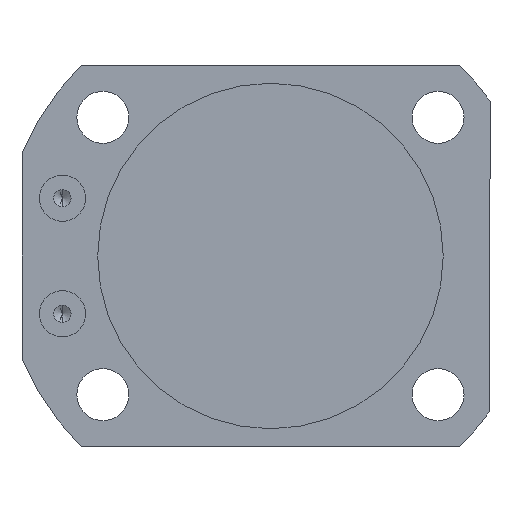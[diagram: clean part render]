
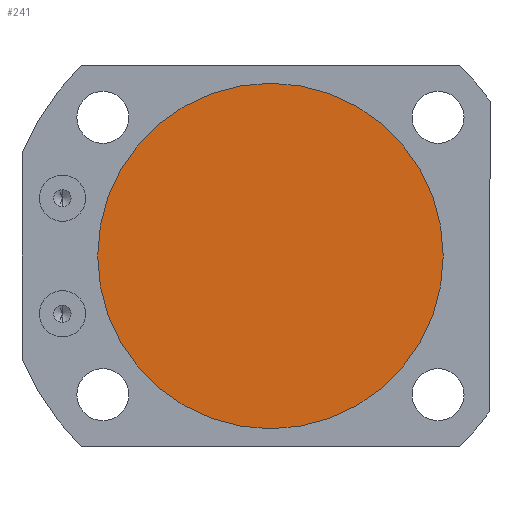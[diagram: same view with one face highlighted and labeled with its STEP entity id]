
A CAD part, front view. The second image highlights one B-rep face of the part: STEP entity #241.
In plain terms, the highlighted planar face has unit normal (0, -1, 0).
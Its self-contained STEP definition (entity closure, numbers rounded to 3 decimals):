
#131 = DIRECTION ( 'NONE',  ( 0., 1., 0. ) ) ;
#154 = EDGE_CURVE ( 'NONE', #2744, #288, #2217, .T. ) ;
#214 = ORIENTED_EDGE ( 'NONE', *, *, #154, .F. ) ;
#241 = ADVANCED_FACE ( 'NONE', ( #1239 ), #1957, .F. ) ;
#288 = VERTEX_POINT ( 'NONE', #1545 ) ;
#694 = DIRECTION ( 'NONE',  ( 0., 1., 0. ) ) ;
#1239 = FACE_OUTER_BOUND ( 'NONE', #3229, .T. ) ;
#1485 = CARTESIAN_POINT ( 'NONE',  ( 0., -6., 0. ) ) ;
#1545 = CARTESIAN_POINT ( 'NONE',  ( 0., -6., 29.9 ) ) ;
#1684 = AXIS2_PLACEMENT_3D ( 'NONE', #2219, #131, #1969 ) ;
#1711 = CIRCLE ( 'NONE', #3331, 29.9 ) ;
#1723 = DIRECTION ( 'NONE',  ( 0., 0., 1. ) ) ;
#1771 = EDGE_CURVE ( 'NONE', #288, #2744, #1711, .T. ) ;
#1957 = PLANE ( 'NONE',  #1684 ) ;
#1969 = DIRECTION ( 'NONE',  ( 0., 0., 1. ) ) ;
#2110 = AXIS2_PLACEMENT_3D ( 'NONE', #1485, #3228, #1723 ) ;
#2216 = CARTESIAN_POINT ( 'NONE',  ( 0., -6., 0. ) ) ;
#2217 = CIRCLE ( 'NONE', #2110, 29.9 ) ;
#2219 = CARTESIAN_POINT ( 'NONE',  ( 0., -6., 0. ) ) ;
#2476 = DIRECTION ( 'NONE',  ( 0., 0., 1. ) ) ;
#2741 = CARTESIAN_POINT ( 'NONE',  ( 0., -6., -29.9 ) ) ;
#2744 = VERTEX_POINT ( 'NONE', #2741 ) ;
#2828 = ORIENTED_EDGE ( 'NONE', *, *, #1771, .F. ) ;
#3228 = DIRECTION ( 'NONE',  ( 0., 1., 0. ) ) ;
#3229 = EDGE_LOOP ( 'NONE', ( #214, #2828 ) ) ;
#3331 = AXIS2_PLACEMENT_3D ( 'NONE', #2216, #694, #2476 ) ;
